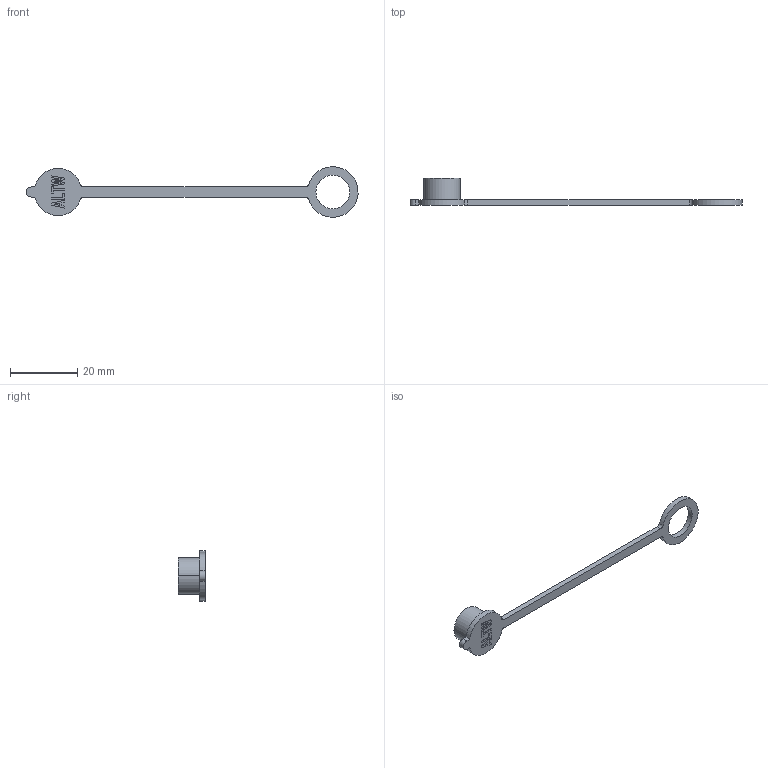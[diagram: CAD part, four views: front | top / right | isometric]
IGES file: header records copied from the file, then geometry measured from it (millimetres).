
Start section:  PTC IGES file: cap-dagfdcc1.igs
Global section: file name: cap-dagfdcc1.igs; native system: Creo Parametric by Parametric Technology Corporation; preprocessor: 2017170; author: L210025; organization: Unknown; date: 20210715.115343; units: millimetre
Bounding box: 98.47 x 8.2 x 14.97 mm (x, y, z)
Surface area: 1715.6 mm2 (no closed solid volume)
Topology: 0 solids, 6 shells, 29 faces, 134 edges, 114 vertices
Faces by surface type: revolution 16, bspline 13
